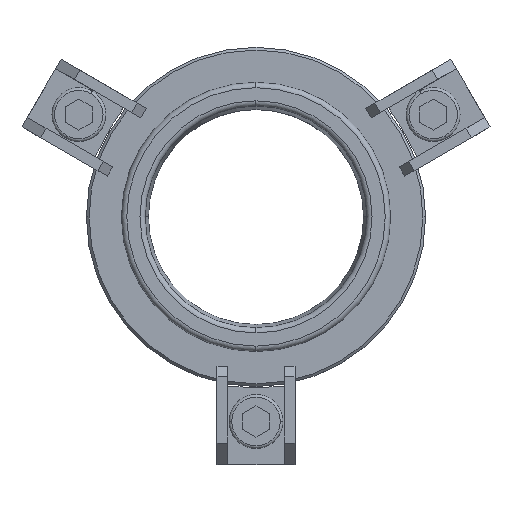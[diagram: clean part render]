
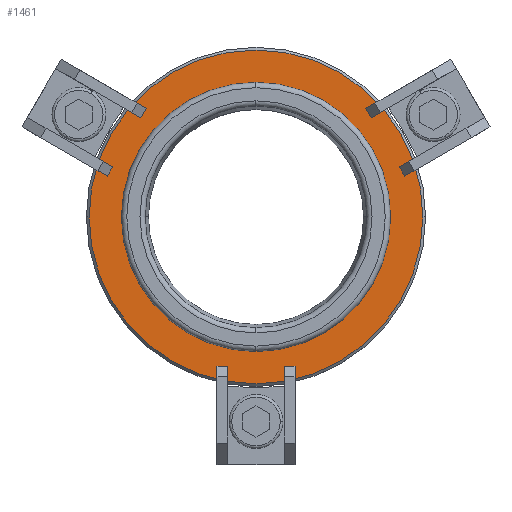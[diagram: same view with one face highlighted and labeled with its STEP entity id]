
A CAD part, top view. The second image highlights one B-rep face of the part: STEP entity #1461.
In plain terms, the highlighted planar face has unit normal (0, 0, 1).
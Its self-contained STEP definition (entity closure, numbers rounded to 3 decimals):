
#322=CARTESIAN_POINT('',(25.0,0.,5.0));
#323=VERTEX_POINT('',#322);
#338=CARTESIAN_POINT('',(-25.0,0.,5.0));
#339=VERTEX_POINT('',#338);
#346=CARTESIAN_POINT('',(0.0,0.,5.0));
#347=DIRECTION('',(0.0,0.0,1.0));
#348=DIRECTION('',(1.0,0.0,0.0));
#349=AXIS2_PLACEMENT_3D('',#346,#347,#348);
#350=CIRCLE('',#349,25.0);
#351=EDGE_CURVE('',#339,#323,#350,.T.);
#361=CARTESIAN_POINT('',(31.0,0.,5.0));
#362=VERTEX_POINT('',#361);
#371=CARTESIAN_POINT('',(-31.0,0.,5.0));
#372=VERTEX_POINT('',#371);
#373=CARTESIAN_POINT('',(0.0,0.,5.0));
#374=DIRECTION('',(0.0,0.0,1.0));
#375=DIRECTION('',(1.0,0.0,0.0));
#376=AXIS2_PLACEMENT_3D('',#373,#374,#375);
#377=CIRCLE('',#376,31.0);
#378=EDGE_CURVE('',#372,#362,#377,.T.);
#1432=CARTESIAN_POINT('',(0.0,0.,5.0));
#1433=DIRECTION('',(0.0,0.0,1.0));
#1434=DIRECTION('',(1.0,0.0,0.0));
#1435=AXIS2_PLACEMENT_3D('',#1432,#1433,#1434);
#1436=CIRCLE('',#1435,31.0);
#1437=EDGE_CURVE('',#362,#372,#1436,.T.);
#1442=CARTESIAN_POINT('',(28.0,0.,5.0));
#1443=DIRECTION('',(0.0,0.0,1.0));
#1444=DIRECTION('',(0.0,-1.0,0.0));
#1445=AXIS2_PLACEMENT_3D('',#1442,#1443,#1444);
#1446=PLANE('',#1445);
#1447=ORIENTED_EDGE('',*,*,#1437,.T.);
#1448=ORIENTED_EDGE('',*,*,#378,.T.);
#1449=EDGE_LOOP('',(#1447,#1448));
#1450=FACE_OUTER_BOUND('',#1449,.T.);
#1451=CARTESIAN_POINT('',(0.0,0.,5.0));
#1452=DIRECTION('',(0.0,0.0,1.0));
#1453=DIRECTION('',(1.0,0.0,0.0));
#1454=AXIS2_PLACEMENT_3D('',#1451,#1452,#1453);
#1455=CIRCLE('',#1454,25.0);
#1456=EDGE_CURVE('',#323,#339,#1455,.T.);
#1457=ORIENTED_EDGE('',*,*,#1456,.F.);
#1458=ORIENTED_EDGE('',*,*,#351,.F.);
#1459=EDGE_LOOP('',(#1457,#1458));
#1460=FACE_BOUND('',#1459,.T.);
#1461=ADVANCED_FACE('',(#1450,#1460),#1446,.T.);
